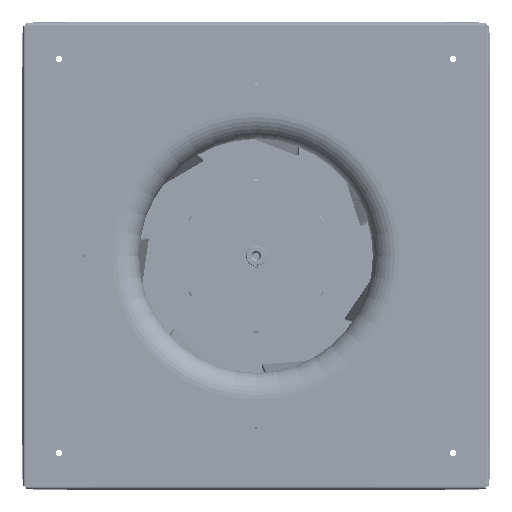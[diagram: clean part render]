
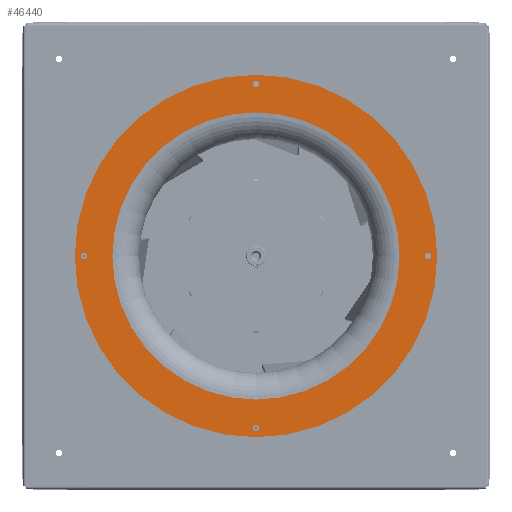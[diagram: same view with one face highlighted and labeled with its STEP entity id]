
A CAD part, front view. The second image highlights one B-rep face of the part: STEP entity #46440.
In plain terms, the highlighted planar face has unit normal (0, -1, 0) as drawn and (0, 0, 1) by its records, which use the part's own axes.
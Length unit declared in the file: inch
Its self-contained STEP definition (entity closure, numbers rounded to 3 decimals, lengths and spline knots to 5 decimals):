
#221 = DIRECTION ( 'NONE',  ( 1., 0., 0. ) ) ;
#1009 = ORIENTED_EDGE ( 'NONE', *, *, #144348, .F. ) ;
#5424 = CARTESIAN_POINT ( 'NONE',  ( 10.11811, 0., 0. ) ) ;
#5922 = CIRCLE ( 'NONE', #74239, 0.16732 ) ;
#8710 = EDGE_CURVE ( 'NONE', #32745, #51939, #134061, .T. ) ;
#10212 = EDGE_LOOP ( 'NONE', ( #32865, #256988 ) ) ;
#13983 = VERTEX_POINT ( 'NONE', #5424 ) ;
#14477 = ORIENTED_EDGE ( 'NONE', *, *, #8710, .F. ) ;
#15972 = DIRECTION ( 'NONE',  ( 0., 0., 1. ) ) ;
#17189 = ORIENTED_EDGE ( 'NONE', *, *, #283825, .F. ) ;
#18755 = ORIENTED_EDGE ( 'NONE', *, *, #159530, .F. ) ;
#19038 = VERTEX_POINT ( 'NONE', #29530 ) ;
#26328 = FACE_BOUND ( 'NONE', #224660, .T. ) ;
#29530 = CARTESIAN_POINT ( 'NONE',  ( 0.16732, -9.6063, 0. ) ) ;
#32745 = VERTEX_POINT ( 'NONE', #231202 ) ;
#32865 = ORIENTED_EDGE ( 'NONE', *, *, #171166, .T. ) ;
#36072 = DIRECTION ( 'NONE',  ( 0., 0., 1. ) ) ;
#39145 = DIRECTION ( 'NONE',  ( 1., 0., 0. ) ) ;
#40708 = CARTESIAN_POINT ( 'NONE',  ( 0., 0., 0. ) ) ;
#41542 = EDGE_LOOP ( 'NONE', ( #14477, #17189 ) ) ;
#43837 = DIRECTION ( 'NONE',  ( 0., 0., 1. ) ) ;
#45686 = CARTESIAN_POINT ( 'NONE',  ( 0., 9.6063, 0. ) ) ;
#46440 = ADVANCED_FACE ( 'NONE', ( #26328, #123746, #293475, #54570, #170982, #288815 ), #148888, .F. ) ;
#46625 = CARTESIAN_POINT ( 'NONE',  ( -9.6063, 0., 0. ) ) ;
#46967 = ORIENTED_EDGE ( 'NONE', *, *, #305928, .F. ) ;
#51939 = VERTEX_POINT ( 'NONE', #257584 ) ;
#54570 = FACE_BOUND ( 'NONE', #75303, .T. ) ;
#54834 = DIRECTION ( 'NONE',  ( 0., 0., 1. ) ) ;
#54906 = CIRCLE ( 'NONE', #130035, 10.11811 ) ;
#57717 = DIRECTION ( 'NONE',  ( 0., 0., 1. ) ) ;
#59260 = CARTESIAN_POINT ( 'NONE',  ( 9.6063, 0., 0. ) ) ;
#59991 = CARTESIAN_POINT ( 'NONE',  ( -8.01772, 0., 0. ) ) ;
#63255 = AXIS2_PLACEMENT_3D ( 'NONE', #260365, #74813, #191236 ) ;
#63265 = AXIS2_PLACEMENT_3D ( 'NONE', #261272, #214147, #112015 ) ;
#70168 = ORIENTED_EDGE ( 'NONE', *, *, #107678, .F. ) ;
#70795 = DIRECTION ( 'NONE',  ( 1., 0., 0. ) ) ;
#74239 = AXIS2_PLACEMENT_3D ( 'NONE', #137556, #302634, #205206 ) ;
#74813 = DIRECTION ( 'NONE',  ( 0., 0., 1. ) ) ;
#75303 = EDGE_LOOP ( 'NONE', ( #70168, #261925 ) ) ;
#78313 = AXIS2_PLACEMENT_3D ( 'NONE', #46625, #188144, #263486 ) ;
#79783 = VERTEX_POINT ( 'NONE', #227893 ) ;
#79978 = CIRCLE ( 'NONE', #225646, 0.16732 ) ;
#80332 = EDGE_CURVE ( 'NONE', #142983, #79783, #133741, .T. ) ;
#93234 = AXIS2_PLACEMENT_3D ( 'NONE', #217218, #196733, #218752 ) ;
#100157 = DIRECTION ( 'NONE',  ( 0., 0., -1. ) ) ;
#105021 = DIRECTION ( 'NONE',  ( 1., 0., 0. ) ) ;
#106231 = CARTESIAN_POINT ( 'NONE',  ( -0.16732, -9.6063, 0. ) ) ;
#107678 = EDGE_CURVE ( 'NONE', #211683, #19038, #79978, .T. ) ;
#109091 = VERTEX_POINT ( 'NONE', #59991 ) ;
#112015 = DIRECTION ( 'NONE',  ( 1., 0., 0. ) ) ;
#113822 = EDGE_CURVE ( 'NONE', #303732, #13983, #146428, .T. ) ;
#116438 = DIRECTION ( 'NONE',  ( 0., 0., 1. ) ) ;
#117831 = CARTESIAN_POINT ( 'NONE',  ( 0.16732, 9.6063, 0. ) ) ;
#122565 = AXIS2_PLACEMENT_3D ( 'NONE', #244955, #273159, #105021 ) ;
#123746 = FACE_BOUND ( 'NONE', #262327, .T. ) ;
#124459 = EDGE_CURVE ( 'NONE', #311094, #109091, #308347, .T. ) ;
#127815 = CARTESIAN_POINT ( 'NONE',  ( 8.01772, 0., 0. ) ) ;
#129480 = CIRCLE ( 'NONE', #215039, 0.16732 ) ;
#130035 = AXIS2_PLACEMENT_3D ( 'NONE', #40708, #43837, #39145 ) ;
#131941 = DIRECTION ( 'NONE',  ( -1., 0., 0. ) ) ;
#133741 = CIRCLE ( 'NONE', #63255, 0.16732 ) ;
#134061 = CIRCLE ( 'NONE', #169363, 0.16732 ) ;
#137556 = CARTESIAN_POINT ( 'NONE',  ( 9.6063, 0., 0. ) ) ;
#142983 = VERTEX_POINT ( 'NONE', #306532 ) ;
#144348 = EDGE_CURVE ( 'NONE', #109091, #311094, #239257, .T. ) ;
#146428 = CIRCLE ( 'NONE', #226743, 10.11811 ) ;
#148888 = PLANE ( 'NONE',  #215216 ) ;
#151984 = DIRECTION ( 'NONE',  ( 0., -1., 0. ) ) ;
#153587 = DIRECTION ( 'NONE',  ( 0., -1., 0. ) ) ;
#159530 = EDGE_CURVE ( 'NONE', #215687, #261499, #221281, .T. ) ;
#160617 = DIRECTION ( 'NONE',  ( 1., 0., 0. ) ) ;
#169363 = AXIS2_PLACEMENT_3D ( 'NONE', #59260, #57717, #153587 ) ;
#170982 = FACE_BOUND ( 'NONE', #41542, .T. ) ;
#171166 = EDGE_CURVE ( 'NONE', #13983, #303732, #54906, .T. ) ;
#175861 = CARTESIAN_POINT ( 'NONE',  ( 0., 9.6063, 0. ) ) ;
#182649 = CARTESIAN_POINT ( 'NONE',  ( 0., 0., 0. ) ) ;
#188144 = DIRECTION ( 'NONE',  ( 0., 0., 1. ) ) ;
#191236 = DIRECTION ( 'NONE',  ( 0., 1., 0. ) ) ;
#192799 = EDGE_CURVE ( 'NONE', #79783, #142983, #213910, .T. ) ;
#196733 = DIRECTION ( 'NONE',  ( 0., 0., 1. ) ) ;
#200923 = EDGE_LOOP ( 'NONE', ( #306089, #284834 ) ) ;
#201718 = CARTESIAN_POINT ( 'NONE',  ( -10.11811, 0., 0. ) ) ;
#205206 = DIRECTION ( 'NONE',  ( 0., -1., 0. ) ) ;
#211683 = VERTEX_POINT ( 'NONE', #106231 ) ;
#213910 = CIRCLE ( 'NONE', #78313, 0.16732 ) ;
#214147 = DIRECTION ( 'NONE',  ( 0., 0., 1. ) ) ;
#215039 = AXIS2_PLACEMENT_3D ( 'NONE', #175861, #54834, #221 ) ;
#215216 = AXIS2_PLACEMENT_3D ( 'NONE', #265253, #100157, #151984 ) ;
#215687 = VERTEX_POINT ( 'NONE', #117831 ) ;
#217218 = CARTESIAN_POINT ( 'NONE',  ( 0., -9.6063, 0. ) ) ;
#218752 = DIRECTION ( 'NONE',  ( -1., 0., 0. ) ) ;
#221281 = CIRCLE ( 'NONE', #241458, 0.16732 ) ;
#224660 = EDGE_LOOP ( 'NONE', ( #275793, #1009 ) ) ;
#225646 = AXIS2_PLACEMENT_3D ( 'NONE', #276528, #36072, #131941 ) ;
#226743 = AXIS2_PLACEMENT_3D ( 'NONE', #182649, #15972, #160617 ) ;
#227893 = CARTESIAN_POINT ( 'NONE',  ( -9.6063, 0.16732, 0. ) ) ;
#231202 = CARTESIAN_POINT ( 'NONE',  ( 9.6063, -0.16732, 0. ) ) ;
#239257 = CIRCLE ( 'NONE', #63265, 8.01772 ) ;
#241458 = AXIS2_PLACEMENT_3D ( 'NONE', #45686, #116438, #70795 ) ;
#244955 = CARTESIAN_POINT ( 'NONE',  ( 0., 0., 0. ) ) ;
#256988 = ORIENTED_EDGE ( 'NONE', *, *, #113822, .T. ) ;
#257584 = CARTESIAN_POINT ( 'NONE',  ( 9.6063, 0.16732, 0. ) ) ;
#260365 = CARTESIAN_POINT ( 'NONE',  ( -9.6063, 0., 0. ) ) ;
#261272 = CARTESIAN_POINT ( 'NONE',  ( 0., 0., 0. ) ) ;
#261499 = VERTEX_POINT ( 'NONE', #284424 ) ;
#261925 = ORIENTED_EDGE ( 'NONE', *, *, #288535, .F. ) ;
#262327 = EDGE_LOOP ( 'NONE', ( #18755, #46967 ) ) ;
#263486 = DIRECTION ( 'NONE',  ( 0., 1., 0. ) ) ;
#265253 = CARTESIAN_POINT ( 'NONE',  ( 0., 10.11811, 0. ) ) ;
#273159 = DIRECTION ( 'NONE',  ( 0., 0., 1. ) ) ;
#273844 = CIRCLE ( 'NONE', #93234, 0.16732 ) ;
#275793 = ORIENTED_EDGE ( 'NONE', *, *, #124459, .F. ) ;
#276528 = CARTESIAN_POINT ( 'NONE',  ( 0., -9.6063, 0. ) ) ;
#283825 = EDGE_CURVE ( 'NONE', #51939, #32745, #5922, .T. ) ;
#284424 = CARTESIAN_POINT ( 'NONE',  ( -0.16732, 9.6063, 0. ) ) ;
#284834 = ORIENTED_EDGE ( 'NONE', *, *, #80332, .F. ) ;
#288535 = EDGE_CURVE ( 'NONE', #19038, #211683, #273844, .T. ) ;
#288815 = FACE_OUTER_BOUND ( 'NONE', #10212, .T. ) ;
#293475 = FACE_BOUND ( 'NONE', #200923, .T. ) ;
#302634 = DIRECTION ( 'NONE',  ( 0., 0., 1. ) ) ;
#303732 = VERTEX_POINT ( 'NONE', #201718 ) ;
#305928 = EDGE_CURVE ( 'NONE', #261499, #215687, #129480, .T. ) ;
#306089 = ORIENTED_EDGE ( 'NONE', *, *, #192799, .F. ) ;
#306532 = CARTESIAN_POINT ( 'NONE',  ( -9.6063, -0.16732, 0. ) ) ;
#308347 = CIRCLE ( 'NONE', #122565, 8.01772 ) ;
#311094 = VERTEX_POINT ( 'NONE', #127815 ) ;
